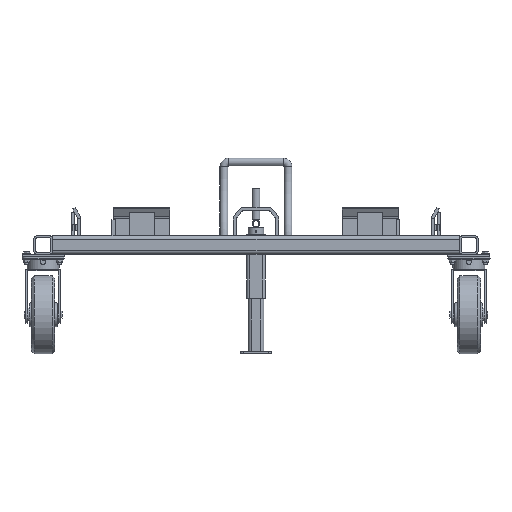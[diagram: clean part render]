
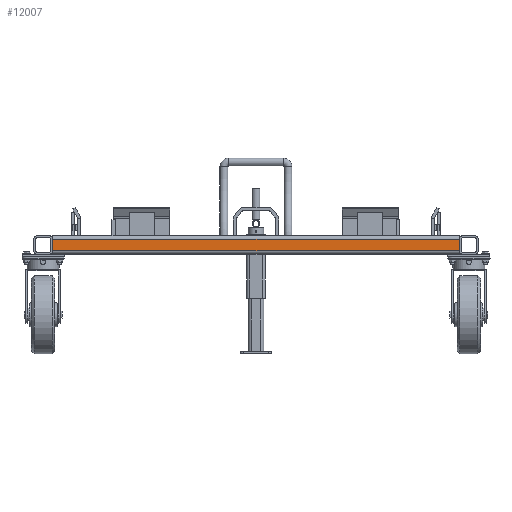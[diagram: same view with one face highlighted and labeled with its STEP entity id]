
A CAD part, front view. The second image highlights one B-rep face of the part: STEP entity #12007.
In plain terms, the highlighted planar face has unit normal (0, -1, 0).
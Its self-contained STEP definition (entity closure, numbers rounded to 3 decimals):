
#11861=CARTESIAN_POINT('',(0.0,0.,-18.));
#11862=VERTEX_POINT('',#11861);
#11870=CARTESIAN_POINT('',(0.0,0.,18.));
#11871=VERTEX_POINT('',#11870);
#11872=CARTESIAN_POINT('',(0.0,0.,-18.));
#11873=DIRECTION('',(0.0,0.0,1.0));
#11874=VECTOR('',#11873,36.);
#11875=LINE('',#11872,#11874);
#11876=EDGE_CURVE('',#11862,#11871,#11875,.T.);
#11964=CARTESIAN_POINT('',(1300.0,0.,18.));
#11965=VERTEX_POINT('',#11964);
#11975=CARTESIAN_POINT('',(0.0,0.,18.));
#11976=DIRECTION('',(1.0,0.0,0.0));
#11977=VECTOR('',#11976,1300.0);
#11978=LINE('',#11975,#11977);
#11979=EDGE_CURVE('',#11871,#11965,#11978,.T.);
#11984=CARTESIAN_POINT('',(0.0,0.0,0.));
#11985=DIRECTION('',(0.0,-1.0,0.0));
#11986=DIRECTION('',(0.0,0.0,-1.0));
#11987=AXIS2_PLACEMENT_3D('',#11984,#11985,#11986);
#11988=PLANE('',#11987);
#11989=ORIENTED_EDGE('',*,*,#11979,.F.);
#11990=ORIENTED_EDGE('',*,*,#11876,.F.);
#11991=CARTESIAN_POINT('',(1300.0,0.,-18.));
#11992=VERTEX_POINT('',#11991);
#11993=CARTESIAN_POINT('',(1300.0,0.,-18.));
#11994=DIRECTION('',(-1.0,0.0,0.0));
#11995=VECTOR('',#11994,1300.0);
#11996=LINE('',#11993,#11995);
#11997=EDGE_CURVE('',#11992,#11862,#11996,.T.);
#11998=ORIENTED_EDGE('',*,*,#11997,.F.);
#11999=CARTESIAN_POINT('',(1300.0,0.,-18.));
#12000=DIRECTION('',(0.0,0.0,1.0));
#12001=VECTOR('',#12000,36.);
#12002=LINE('',#11999,#12001);
#12003=EDGE_CURVE('',#11992,#11965,#12002,.T.);
#12004=ORIENTED_EDGE('',*,*,#12003,.T.);
#12005=EDGE_LOOP('',(#11989,#11990,#11998,#12004));
#12006=FACE_OUTER_BOUND('',#12005,.T.);
#12007=ADVANCED_FACE('',(#12006),#11988,.T.);
